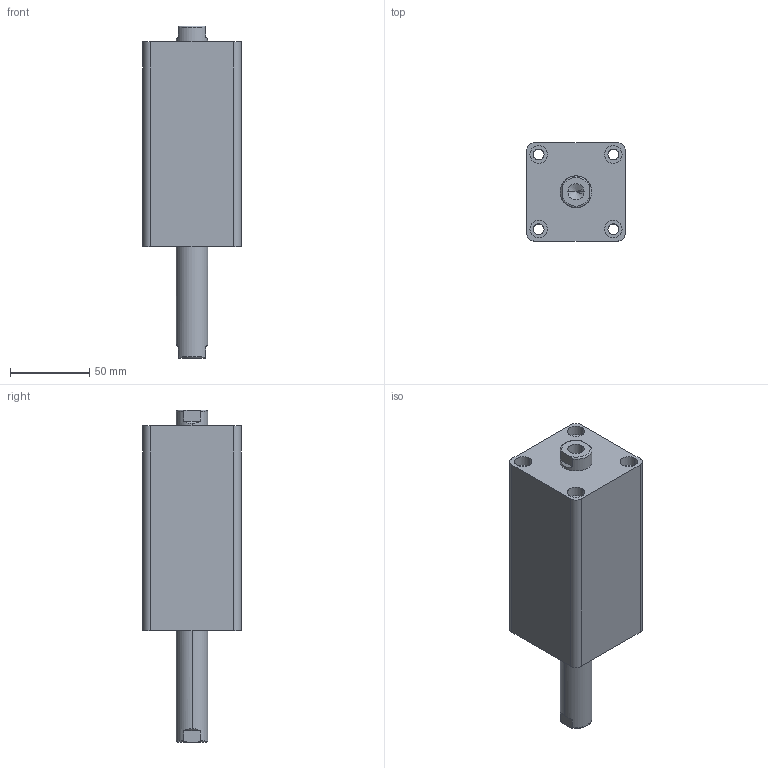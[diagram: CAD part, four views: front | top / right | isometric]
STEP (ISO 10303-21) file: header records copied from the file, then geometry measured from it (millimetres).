
FILE_DESCRIPTION (( 'STEP AP203' ), '1' );
FILE_NAME ('HTB-SW32-60N.STEP', '2019-10-07T08:55:12', ( '微软用户' ), ( '微软中国' ), 'SwSTEP 2.0', 'SolidWorks 2012', '' );
FILE_SCHEMA (( 'CONFIG_CONTROL_DESIGN' ));
Length unit declared in the file: millimetre
Products named in the file (3): HTB-SW32-60N; HTB-SW32-60N活塞杆; HTB-SW32-60掛极
Assembly tree (2 placements, depth 2):
  HTB-SW32-60N
    HTB-SW32-60掛极
    HTB-SW32-60N活塞杆
Bounding box: 62 x 62 x 209 mm (x, y, z)
Volume: 461886.3 mm3; surface area: 78319.7 mm2
Topology: 2 solids, 2 shells, 100 faces, 228 edges, 146 vertices
Faces by surface type: cylinder 48, plane 32, torus 12, cone 8
Entity records: 3237 total; most frequent: CARTESIAN_POINT 595, DIRECTION 542, ORIENTED_EDGE 448, AXIS2_PLACEMENT_3D 229, EDGE_CURVE 224, VERTEX_POINT 146, EDGE_LOOP 128, CIRCLE 124
